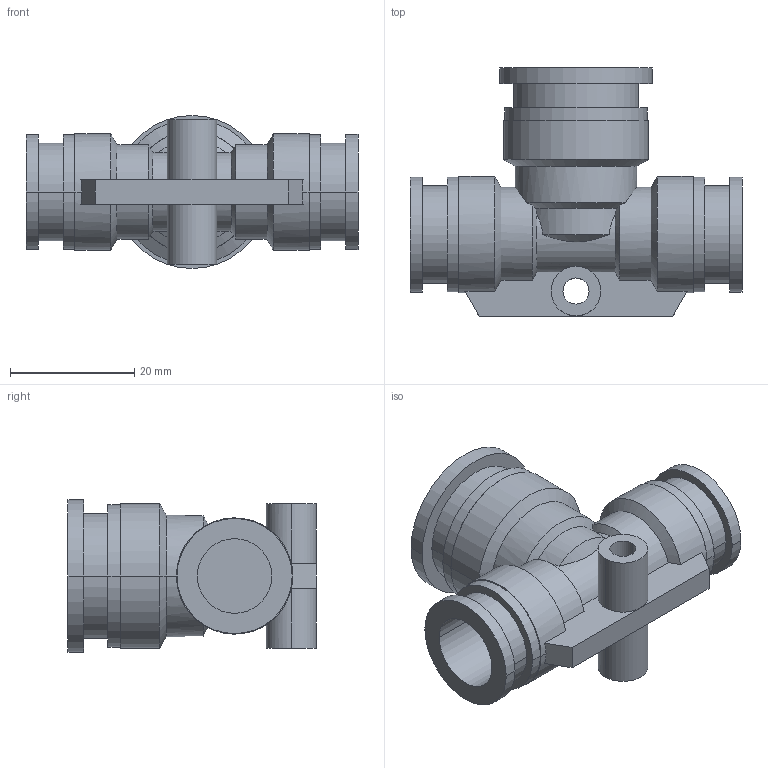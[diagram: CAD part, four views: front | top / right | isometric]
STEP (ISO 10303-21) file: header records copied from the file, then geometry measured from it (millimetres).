
FILE_DESCRIPTION( ( '' ), '1' );
FILE_NAME( 'G:/SMC狟婥/KQ2T12-16A.stp', '2023-03-07T03:28:16', ( '' ), ( '' ), ' ', ' ', ' ' );
FILE_SCHEMA( ( 'CONFIG_CONTROL_DESIGN' ) );
Length unit declared in the file: millimetre
Products named in the file (1): 1
Bounding box: 53.4 x 39.9 x 24.6 mm (x, y, z)
Volume: 12071.7 mm3; surface area: 9384.2 mm2
Topology: 1 solids, 1 shells, 84 faces, 198 edges, 128 vertices
Faces by surface type: cylinder 46, plane 24, cone 14
Entity records: 2678 total; most frequent: CARTESIAN_POINT 667, DIRECTION 436, ORIENTED_EDGE 396, EDGE_CURVE 198, AXIS2_PLACEMENT_3D 185, VERTEX_POINT 128, EDGE_LOOP 98, CIRCLE 96
